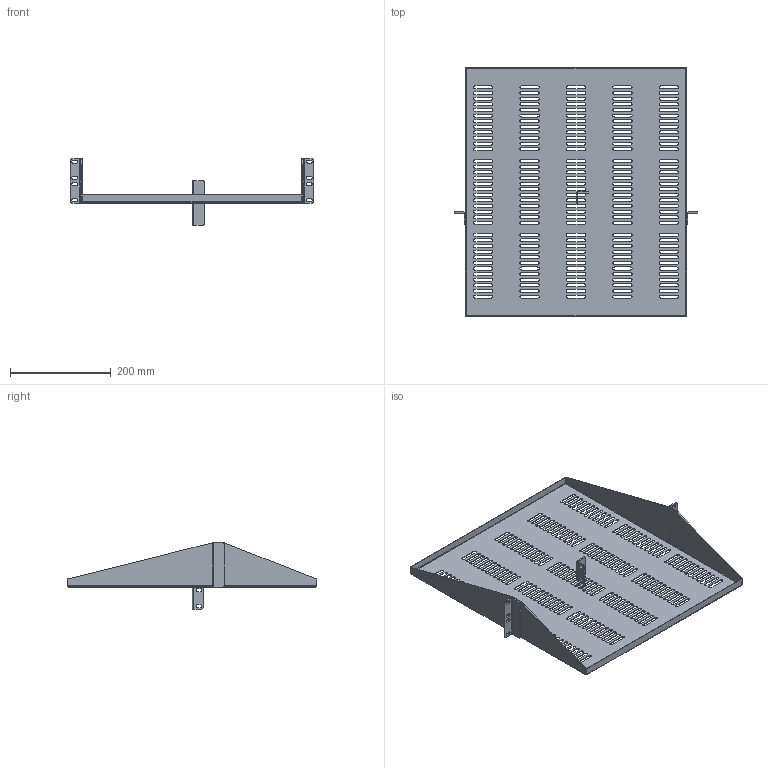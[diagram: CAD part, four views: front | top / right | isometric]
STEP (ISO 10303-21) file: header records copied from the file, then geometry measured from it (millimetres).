
FILE_DESCRIPTION( ( 'Unknown' ), '1' );
FILE_NAME( 'Q:/ACCESSORIES/SHELVES/DND/WEB DRAWINGS/STEP/DNDMV19.stp', 'Unknown', ( 'Unknown' ), ( 'Unknown' ), 'PSStep 10.1', 'Unknown', ' ' );
FILE_SCHEMA( ( 'AUTOMOTIVE_DESIGN { 1 0 10303 214 1 1 1 1 }' ) );
Length unit declared in the file: millimetre
Products named in the file (3): Assem1; COM50203; COM53909
Bounding box: 482.6 x 495.3 x 130.92 mm (x, y, z)
Volume: 720926.9 mm3; surface area: 1033368.4 mm2
Topology: 5 solids, 5 shells, 1646 faces, 4860 edges, 3224 vertices
Faces by surface type: plane 836, cylinder 794, bspline 16
Entity records: 34910 total; most frequent: CARTESIAN_POINT 5400, ORIENTED_EDGE 4776, DIRECTION 4736, EDGE_CURVE 2388, AXIS2_PLACEMENT_3D 1584, VERTEX_POINT 1584, LINE 1568, VECTOR 1568
